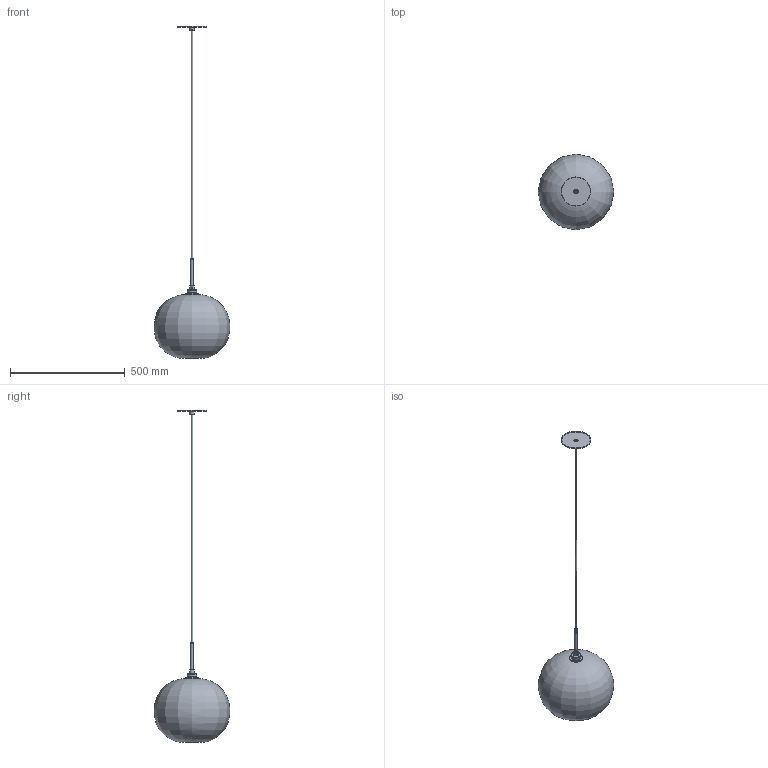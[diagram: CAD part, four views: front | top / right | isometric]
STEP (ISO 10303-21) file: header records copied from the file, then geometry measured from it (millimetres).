
FILE_DESCRIPTION(/* description */ (''),/* implementation_level */ '2;1');
FILE_NAME(/* name */ 'C:/Users/zach/Niche/Product Development - Documents/CAD Models/Pendants/Terra/Glass - Luxe Hardware/Niche - Terra Pendant.step',/* time_stamp */ '2022-09-27T11:49:00-04:00',/* author */ (''),/* organization */ (''),/* preprocessor_version */ 'ST-DEVELOPER v19',/* originating_system */ 'Autodesk Translation Framework v11.7.0.108',/* authorisation */ '');
FILE_SCHEMA (('AUTOMOTIVE_DESIGN { 1 0 10303 214 3 1 1 }'));
Length unit declared in the file: inch
Products named in the file (1): Terra
Bounding box: 330.06 x 330.07 x 1448.84 mm (x, y, z)
Volume: 1736094.7 mm3; surface area: 747818.6 mm2
Topology: 12 solids, 12 shells, 233 faces, 603 edges, 399 vertices
Faces by surface type: cylinder 154, plane 59, bspline 14, cone 3, torus 2, sphere 1
Full cylindrical faces by diameter (mm): 4.355 x4, 4.529 x1, 4.927 x9, 5.08 x1, 6.096 x1, 6.35 x1, 6.5 x1, 7.62 x1, 7.744 x7, 8.036 x15, 8.852 x1, 8.884 x8, 9.035 x1, 9.146 x11, 10.16 x1, 12.7 x2, 19.05 x1, 19.2 x1, 26.022 x1, 34.74 x1, 34.97 x1, 35.052 x9, 37.85 x8, 39 x1, 39.35 x1, 41.035 x1, 41.2 x1, 41.884 x1, 44 x1, 44.452 x1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
Entity records: 18112 total; most frequent: CARTESIAN_POINT 12849, ORIENTED_EDGE 1204, DIRECTION 854, EDGE_CURVE 602, VERTEX_POINT 399, AXIS2_PLACEMENT_3D 318, B_SPLINE_CURVE_WITH_KNOTS 284, EDGE_LOOP 263
